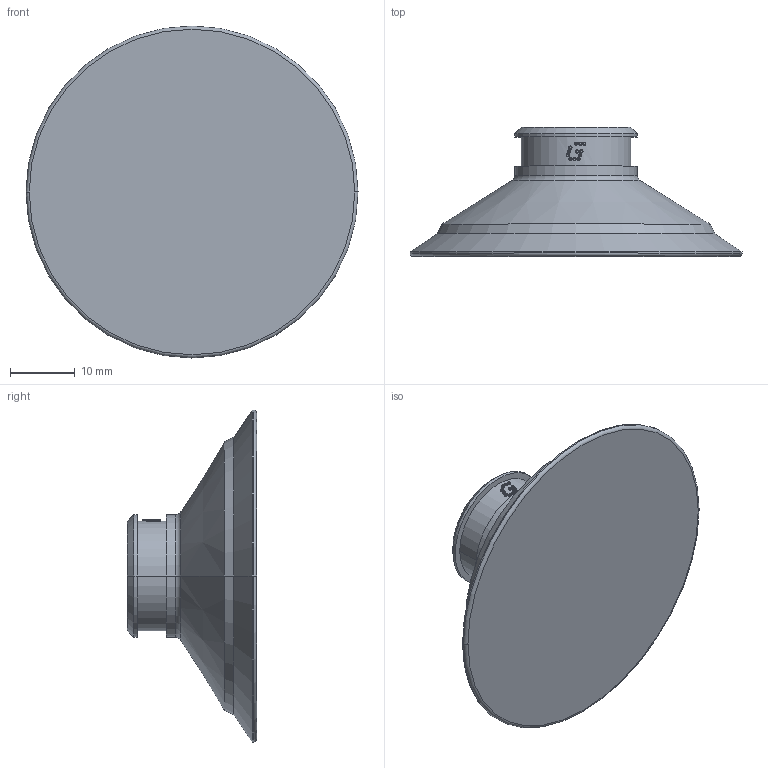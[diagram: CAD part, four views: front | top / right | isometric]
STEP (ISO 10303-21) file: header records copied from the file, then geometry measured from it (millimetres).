
FILE_DESCRIPTION (( 'STEP AP203' ), '1' );
FILE_NAME ('2321689.STEP', '2020-12-04T08:59:53', ( '' ), ( '' ), 'SwSTEP 2.0', 'SolidWorks 2020', '' );
FILE_SCHEMA (( 'CONFIG_CONTROL_DESIGN' ));
Length unit declared in the file: millimetre
Products named in the file (2): Copia di 2321689-AS01^2321689; 2321689
Assembly tree (1 placements, depth 2):
  2321689
    Copia di 2321689-AS01^2321689
Bounding box: 51.4 x 20 x 51.4 mm (x, y, z)
Volume: 15734.2 mm3; surface area: 5190.5 mm2
Topology: 1 solids, 1 shells, 84 faces, 190 edges, 122 vertices
Faces by surface type: cylinder 44, bspline 24, cone 8, torus 4, plane 4
Entity records: 4197 total; most frequent: CARTESIAN_POINT 2353, ORIENTED_EDGE 380, DIRECTION 276, EDGE_CURVE 190, VERTEX_POINT 122, AXIS2_PLACEMENT_3D 118, EDGE_LOOP 98, B_SPLINE_CURVE_WITH_KNOTS 96
